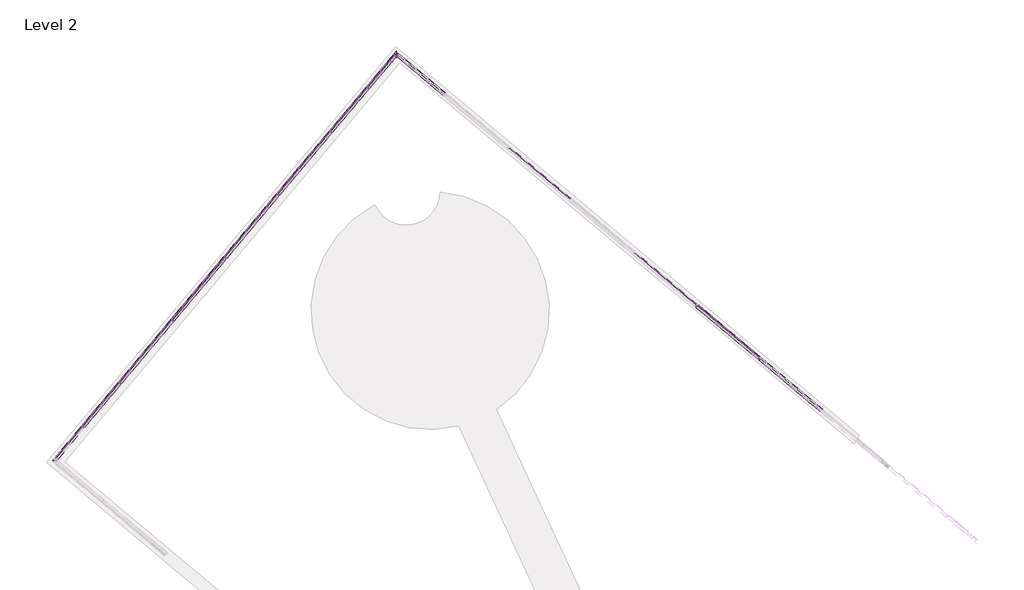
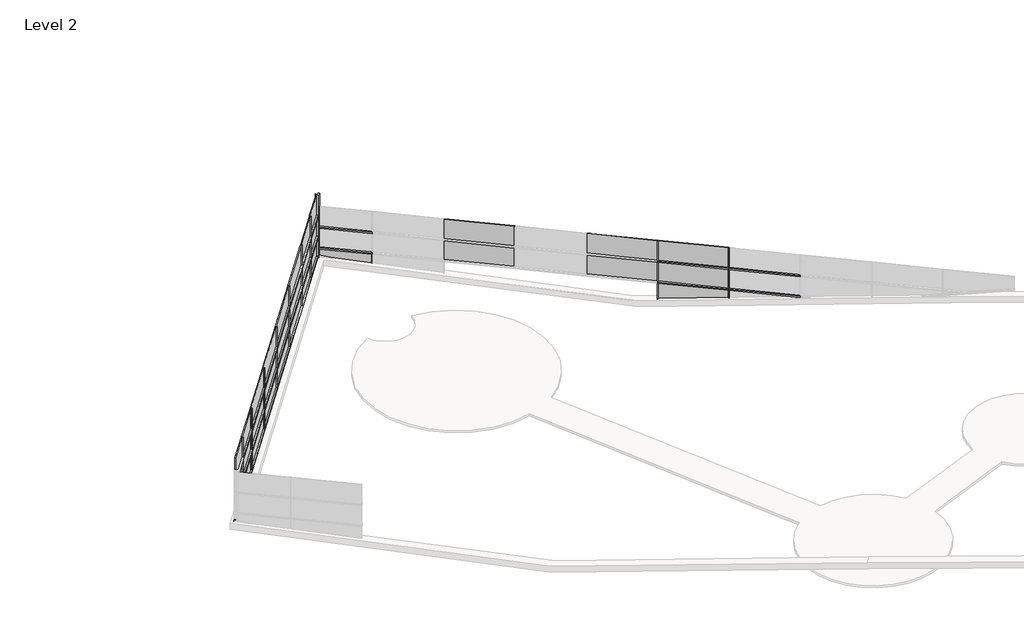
# One storey, part 3 of 4: 60 members, 32 plates.
"""IFC4 building model written with IfcOpenShell, lengths in millimetres."""

from ifc_helpers import new_model, si_unit, origin, place, context, project, spatial, transform, mapped, element, save
from components import member_d3104823, member_e6b937b8, member_e515bb77, member_d5849883, member_eb3f8489, member_eaba9652, member_3f395ae9, member_7cbddb58, member_3374d9b6, member_117cba67, member_79970b2d, member_c6559f13, member_8e78e238, member_25f71179, member_387caf8a, system_panel_glazed_a2c5a472, system_panel_glazed_e8362dec, system_panel_glazed_aaae68ce, system_panel_glazed_3c43611c, system_panel_glazed_5551a58a, system_panel_glazed_c349e88e, system_panel_glazed_467c971b, system_panel_glazed_b915fa72

model = new_model("IFC4")

# Units and contexts
model_context = context("Model", 3, world=origin())
ifc_project = project(units=[si_unit("LENGTHUNIT", "METRE", prefix="MILLI")], contexts=[model_context])

# Site, building, storey
site = spatial("IfcSite", under=ifc_project)
building = spatial("IfcBuilding", under=site)
storey = spatial("IfcBuildingStorey", under=building, Name="Level 2", Elevation=3048.0)

# Members
placement = place(None, origin())
member_shape = member_d3104823(model_context)
element("IfcMember", 1, ObjectType="Rectangular Mullion : 1.5\" x 2.5\" rectangular", at=placement, inside=storey, context=model_context, shape_type="MappedRepresentation", body=[
    mapped(member_shape, transform((-58047.6752037, 33669.3461699, 4620.4974171), x_axis=(0.6427876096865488, 0.7660444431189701, 0.0), y_axis=(-0.7660444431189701, 0.6427876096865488, 0.0), z_axis=(0.0, 0.0, 1.0))),
])
element("IfcMember", 2, ObjectType="Rectangular Mullion : 1.5\" x 2.5\" rectangular", at=placement, inside=storey, context=model_context, shape_type="MappedRepresentation", body=[
    mapped(member_shape, transform((-56676.2235597, 35303.7785937, 4620.4974171), x_axis=(0.6427876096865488, 0.7660444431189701, 0.0), y_axis=(-0.7660444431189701, 0.6427876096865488, 0.0), z_axis=(0.0, 0.0, 1.0))),
])
element("IfcMember", 3, ObjectType="Rectangular Mullion : 1.5\" x 2.5\" rectangular", at=placement, inside=storey, context=model_context, shape_type="MappedRepresentation", body=[
    mapped(member_shape, transform((-54717.0069254, 37638.6820564, 4620.4974171), x_axis=(0.6427876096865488, 0.7660444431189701, 0.0), y_axis=(-0.7660444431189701, 0.6427876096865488, 0.0), z_axis=(0.0, 0.0, 1.0))),
])
element("IfcMember", 4, ObjectType="Rectangular Mullion : 1.5\" x 2.5\" rectangular", at=placement, inside=storey, context=model_context, shape_type="MappedRepresentation", body=[
    mapped(member_shape, transform((-52757.790291, 39973.585519, 4620.4974171), x_axis=(0.6427876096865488, 0.7660444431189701, 0.0), y_axis=(-0.7660444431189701, 0.6427876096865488, 0.0), z_axis=(0.0, 0.0, 1.0))),
])
element("IfcMember", 5, ObjectType="Rectangular Mullion : 1.5\" x 2.5\" rectangular", at=placement, inside=storey, context=model_context, shape_type="MappedRepresentation", body=[
    mapped(member_shape, transform((-50798.5736567, 42308.4889816, 4620.4974171), x_axis=(0.6427876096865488, 0.7660444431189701, 0.0), y_axis=(-0.7660444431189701, 0.6427876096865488, 0.0), z_axis=(0.0, 0.0, 1.0))),
])
element("IfcMember", 6, ObjectType="Rectangular Mullion : 1.5\" x 2.5\" rectangular", at=placement, inside=storey, context=model_context, shape_type="MappedRepresentation", body=[
    mapped(member_shape, transform((-48839.3570224, 44643.3924442, 4620.4974171), x_axis=(0.6427876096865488, 0.7660444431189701, 0.0), y_axis=(-0.7660444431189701, 0.6427876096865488, 0.0), z_axis=(0.0, 0.0, 1.0))),
])
element("IfcMember", 7, ObjectType="Rectangular Mullion : 1.5\" x 2.5\" rectangular", at=placement, inside=storey, context=model_context, shape_type="MappedRepresentation", body=[
    mapped(member_shape, transform((-47467.9053784, 46277.8248681, 4620.4974171), x_axis=(0.6427876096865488, 0.7660444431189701, 0.0), y_axis=(-0.7660444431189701, 0.6427876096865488, 0.0), z_axis=(0.0, 0.0, 1.0))),
])
member_2_shape = member_e6b937b8(model_context)
element("IfcMember", 8, ObjectType="Rectangular Mullion : 1.5\" x 2.5\" rectangular", at=placement, inside=storey, context=model_context, shape_type="MappedRepresentation", body=[
    mapped(member_2_shape, transform((-58047.6752037, 33669.3461699, 5687.2974171), x_axis=(0.6427876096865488, 0.7660444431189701, 0.0), y_axis=(-0.7660444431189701, 0.6427876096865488, 0.0), z_axis=(0.0, 0.0, 1.0))),
])
element("IfcMember", 9, ObjectType="Rectangular Mullion : 1.5\" x 2.5\" rectangular", at=placement, inside=storey, context=model_context, shape_type="MappedRepresentation", body=[
    mapped(member_2_shape, transform((-56676.2235597, 35303.7785937, 5687.2974171), x_axis=(0.6427876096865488, 0.7660444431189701, 0.0), y_axis=(-0.7660444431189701, 0.6427876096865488, 0.0), z_axis=(0.0, 0.0, 1.0))),
])
element("IfcMember", 10, ObjectType="Rectangular Mullion : 1.5\" x 2.5\" rectangular", at=placement, inside=storey, context=model_context, shape_type="MappedRepresentation", body=[
    mapped(member_2_shape, transform((-54717.0069254, 37638.6820564, 5687.2974171), x_axis=(0.6427876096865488, 0.7660444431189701, 0.0), y_axis=(-0.7660444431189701, 0.6427876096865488, 0.0), z_axis=(0.0, 0.0, 1.0))),
])
element("IfcMember", 11, ObjectType="Rectangular Mullion : 1.5\" x 2.5\" rectangular", at=placement, inside=storey, context=model_context, shape_type="MappedRepresentation", body=[
    mapped(member_2_shape, transform((-52757.790291, 39973.585519, 5687.2974171), x_axis=(0.6427876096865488, 0.7660444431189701, 0.0), y_axis=(-0.7660444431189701, 0.6427876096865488, 0.0), z_axis=(0.0, 0.0, 1.0))),
])
element("IfcMember", 12, ObjectType="Rectangular Mullion : 1.5\" x 2.5\" rectangular", at=placement, inside=storey, context=model_context, shape_type="MappedRepresentation", body=[
    mapped(member_2_shape, transform((-58047.6752037, 33669.3461699, 6754.0974171), x_axis=(0.6427876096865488, 0.7660444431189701, 0.0), y_axis=(-0.7660444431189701, 0.6427876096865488, 0.0), z_axis=(0.0, 0.0, 1.0))),
])
element("IfcMember", 13, ObjectType="Rectangular Mullion : 1.5\" x 2.5\" rectangular", at=placement, inside=storey, context=model_context, shape_type="MappedRepresentation", body=[
    mapped(member_2_shape, transform((-56676.2235597, 35303.7785937, 6754.0974171), x_axis=(0.6427876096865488, 0.7660444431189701, 0.0), y_axis=(-0.7660444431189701, 0.6427876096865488, 0.0), z_axis=(0.0, 0.0, 1.0))),
])
element("IfcMember", 14, ObjectType="Rectangular Mullion : 1.5\" x 2.5\" rectangular", at=placement, inside=storey, context=model_context, shape_type="MappedRepresentation", body=[
    mapped(member_2_shape, transform((-54717.0069254, 37638.6820564, 6754.0974171), x_axis=(0.6427876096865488, 0.7660444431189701, 0.0), y_axis=(-0.7660444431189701, 0.6427876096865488, 0.0), z_axis=(0.0, 0.0, 1.0))),
])
element("IfcMember", 15, ObjectType="Rectangular Mullion : 1.5\" x 2.5\" rectangular", at=placement, inside=storey, context=model_context, shape_type="MappedRepresentation", body=[
    mapped(member_2_shape, transform((-52757.790291, 39973.585519, 6754.0974171), x_axis=(0.6427876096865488, 0.7660444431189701, 0.0), y_axis=(-0.7660444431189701, 0.6427876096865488, 0.0), z_axis=(0.0, 0.0, 1.0))),
])
element("IfcMember", 16, ObjectType="Rectangular Mullion : 1.5\" x 2.5\" rectangular", at=placement, inside=storey, context=model_context, shape_type="MappedRepresentation", body=[
    mapped(member_2_shape, transform((-50798.5736567, 42308.4889816, 5687.2974171), x_axis=(0.6427876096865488, 0.7660444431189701, 0.0), y_axis=(-0.7660444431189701, 0.6427876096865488, 0.0), z_axis=(0.0, 0.0, 1.0))),
])
element("IfcMember", 17, ObjectType="Rectangular Mullion : 1.5\" x 2.5\" rectangular", at=placement, inside=storey, context=model_context, shape_type="MappedRepresentation", body=[
    mapped(member_2_shape, transform((-48839.3570224, 44643.3924442, 5687.2974171), x_axis=(0.6427876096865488, 0.7660444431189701, 0.0), y_axis=(-0.7660444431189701, 0.6427876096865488, 0.0), z_axis=(0.0, 0.0, 1.0))),
])
element("IfcMember", 18, ObjectType="Rectangular Mullion : 1.5\" x 2.5\" rectangular", at=placement, inside=storey, context=model_context, shape_type="MappedRepresentation", body=[
    mapped(member_2_shape, transform((-50798.5736567, 42308.4889816, 6754.0974171), x_axis=(0.6427876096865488, 0.7660444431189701, 0.0), y_axis=(-0.7660444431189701, 0.6427876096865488, 0.0), z_axis=(0.0, 0.0, 1.0))),
])
element("IfcMember", 19, ObjectType="Rectangular Mullion : 1.5\" x 2.5\" rectangular", at=placement, inside=storey, context=model_context, shape_type="MappedRepresentation", body=[
    mapped(member_2_shape, transform((-48839.3570224, 44643.3924442, 6754.0974171), x_axis=(0.6427876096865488, 0.7660444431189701, 0.0), y_axis=(-0.7660444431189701, 0.6427876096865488, 0.0), z_axis=(0.0, 0.0, 1.0))),
])
element("IfcMember", 20, ObjectType="Rectangular Mullion : 1.5\" x 2.5\" rectangular", at=placement, inside=storey, context=model_context, shape_type="MappedRepresentation", body=[
    mapped(member_2_shape, transform((-35266.5365873, 38181.4180788, 5066.7444177), x_axis=(0.76604444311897, -0.6427876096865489, 0.0), y_axis=(0.6427876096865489, 0.76604444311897, 0.0), z_axis=(0.0, 0.0, 1.0))),
])
element("IfcMember", 21, ObjectType="Rectangular Mullion : 1.5\" x 2.5\" rectangular", at=placement, inside=storey, context=model_context, shape_type="MappedRepresentation", body=[
    mapped(member_2_shape, transform((-32931.6331246, 36222.2014445, 5066.7444177), x_axis=(0.76604444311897, -0.6427876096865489, 0.0), y_axis=(0.6427876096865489, 0.76604444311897, 0.0), z_axis=(0.0, 0.0, 1.0))),
])
element("IfcMember", 22, ObjectType="Rectangular Mullion : 1.5\" x 2.5\" rectangular", at=placement, inside=storey, context=model_context, shape_type="MappedRepresentation", body=[
    mapped(member_2_shape, transform((-35266.5365873, 38181.4180788, 6133.5444177), x_axis=(0.76604444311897, -0.6427876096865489, 0.0), y_axis=(0.6427876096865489, 0.76604444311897, 0.0), z_axis=(0.0, 0.0, 1.0))),
])
element("IfcMember", 23, ObjectType="Rectangular Mullion : 1.5\" x 2.5\" rectangular", at=placement, inside=storey, context=model_context, shape_type="MappedRepresentation", body=[
    mapped(member_2_shape, transform((-32931.6331246, 36222.2014445, 6133.5444177), x_axis=(0.76604444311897, -0.6427876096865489, 0.0), y_axis=(0.6427876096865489, 0.76604444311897, 0.0), z_axis=(0.0, 0.0, 1.0))),
])
element("IfcMember", 24, ObjectType="Rectangular Mullion : 1.5\" x 2.5\" rectangular", at=placement, inside=storey, context=model_context, shape_type="MappedRepresentation", body=[
    mapped(member_2_shape, transform((-47467.9053784, 46277.8248681, 5687.2974171), x_axis=(0.6427876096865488, 0.7660444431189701, 0.0), y_axis=(-0.7660444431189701, 0.6427876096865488, 0.0), z_axis=(0.0, 0.0, 1.0))),
])
element("IfcMember", 25, ObjectType="Rectangular Mullion : 1.5\" x 2.5\" rectangular", at=placement, inside=storey, context=model_context, shape_type="MappedRepresentation", body=[
    mapped(member_2_shape, transform((-47467.9053784, 46277.8248681, 6754.0974171), x_axis=(0.6427876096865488, 0.7660444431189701, 0.0), y_axis=(-0.7660444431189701, 0.6427876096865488, 0.0), z_axis=(0.0, 0.0, 1.0))),
])
member_3_shape = member_e515bb77(model_context)
element("IfcMember", 26, ObjectType="Rectangular Mullion : 1.5\" x 2.5\" rectangular", at=placement, inside=storey, context=model_context, shape_type="MappedRepresentation", body=[
    mapped(member_3_shape, transform((-35266.5365873, 38181.4180788, 3999.9444177), x_axis=(0.76604444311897, -0.6427876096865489, 0.0), y_axis=(0.6427876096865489, 0.76604444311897, 0.0), z_axis=(0.0, 0.0, 1.0))),
])
member_4_shape = member_d5849883(model_context)
element("IfcMember", 27, ObjectType="Rectangular Mullion : 1.5\" x 2.5\" rectangular", at=placement, inside=storey, context=model_context, shape_type="MappedRepresentation", body=[
    mapped(member_4_shape, transform((-32931.6331246, 36222.2014445, 3999.9444177), x_axis=(0.76604444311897, -0.6427876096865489, 0.0), y_axis=(0.6427876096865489, 0.76604444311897, 0.0), z_axis=(0.0, 0.0, 1.0))),
])
member_5_shape = member_eb3f8489(model_context)
element("IfcMember", 28, ObjectType="Rectangular Mullion : 1.5\" x 2.5\" rectangular", at=placement, inside=storey, context=model_context, shape_type="MappedRepresentation", body=[
    mapped(member_5_shape, transform((-46413.2957994, 47534.6596226, 3585.4474171), x_axis=(-0.76604444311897, 0.6427876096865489, 0.0), y_axis=(0.6427876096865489, 0.76604444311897, 0.0), z_axis=(0.0, 0.0, -1.0))),
])
member_6_shape = member_eaba9652(model_context)
element("IfcMember", 29, ObjectType="Rectangular Mullion : 2.5\" x 5\" rectangular", at=placement, inside=storey, context=model_context, shape_type="MappedRepresentation", body=[
    mapped(member_6_shape, transform((-56676.2235597, 35303.7785937, 4652.2474171), x_axis=(0.0, 0.0, 1.0), y_axis=(-0.766044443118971, 0.6427876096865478, 0.0), z_axis=(-0.6427876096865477, -0.7660444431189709, 0.0))),
])
element("IfcMember", 30, ObjectType="Rectangular Mullion : 2.5\" x 5\" rectangular", at=placement, inside=storey, context=model_context, shape_type="MappedRepresentation", body=[
    mapped(member_6_shape, transform((-54717.0069254, 37638.6820564, 4652.2474171), x_axis=(0.0, 0.0, 1.0), y_axis=(-0.7660444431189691, 0.6427876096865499, 0.0), z_axis=(-0.6427876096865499, -0.7660444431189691, 0.0))),
])
element("IfcMember", 31, ObjectType="Rectangular Mullion : 2.5\" x 5\" rectangular", at=placement, inside=storey, context=model_context, shape_type="MappedRepresentation", body=[
    mapped(member_6_shape, transform((-52757.790291, 39973.585519, 4652.2474171), x_axis=(0.0, 0.0, 1.0), y_axis=(-0.7660444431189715, 0.6427876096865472, 0.0), z_axis=(-0.6427876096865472, -0.7660444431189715, 0.0))),
])
element("IfcMember", 32, ObjectType="Rectangular Mullion : 2.5\" x 5\" rectangular", at=placement, inside=storey, context=model_context, shape_type="MappedRepresentation", body=[
    mapped(member_6_shape, transform((-56676.2235597, 35303.7785937, 5719.0474171), x_axis=(0.0, 0.0, 1.0), y_axis=(-0.766044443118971, 0.6427876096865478, 0.0), z_axis=(-0.6427876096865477, -0.7660444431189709, 0.0))),
])
element("IfcMember", 33, ObjectType="Rectangular Mullion : 2.5\" x 5\" rectangular", at=placement, inside=storey, context=model_context, shape_type="MappedRepresentation", body=[
    mapped(member_6_shape, transform((-54717.0069254, 37638.6820564, 5719.0474171), x_axis=(0.0, 0.0, 1.0), y_axis=(-0.7660444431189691, 0.6427876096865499, 0.0), z_axis=(-0.6427876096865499, -0.7660444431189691, 0.0))),
])
element("IfcMember", 34, ObjectType="Rectangular Mullion : 2.5\" x 5\" rectangular", at=placement, inside=storey, context=model_context, shape_type="MappedRepresentation", body=[
    mapped(member_6_shape, transform((-52757.790291, 39973.585519, 5719.0474171), x_axis=(0.0, 0.0, 1.0), y_axis=(-0.76604444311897, 0.642787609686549, 0.0), z_axis=(-0.6427876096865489, -0.7660444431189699, 0.0))),
])
element("IfcMember", 35, ObjectType="Rectangular Mullion : 2.5\" x 5\" rectangular", at=placement, inside=storey, context=model_context, shape_type="MappedRepresentation", body=[
    mapped(member_6_shape, transform((-50798.5736567, 42308.4889816, 4652.2474171), x_axis=(0.0, 0.0, 1.0), y_axis=(-0.766044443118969, 0.64278760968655, 0.0), z_axis=(-0.64278760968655, -0.766044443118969, 0.0))),
])
element("IfcMember", 36, ObjectType="Rectangular Mullion : 2.5\" x 5\" rectangular", at=placement, inside=storey, context=model_context, shape_type="MappedRepresentation", body=[
    mapped(member_6_shape, transform((-50798.5736567, 42308.4889816, 5719.0474171), x_axis=(0.0, 0.0, 1.0), y_axis=(-0.766044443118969, 0.64278760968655, 0.0), z_axis=(-0.64278760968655, -0.766044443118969, 0.0))),
])
element("IfcMember", 37, ObjectType="Rectangular Mullion : 2.5\" x 5\" rectangular", at=placement, inside=storey, context=model_context, shape_type="MappedRepresentation", body=[
    mapped(member_6_shape, transform((-35266.5365873, 38181.4180788, 4031.6944177), x_axis=(0.0, 0.0, 1.0), y_axis=(0.642787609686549, 0.76604444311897, 0.0), z_axis=(-0.7660444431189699, 0.6427876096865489, 0.0))),
])
element("IfcMember", 38, ObjectType="Rectangular Mullion : 2.5\" x 5\" rectangular", at=placement, inside=storey, context=model_context, shape_type="MappedRepresentation", body=[
    mapped(member_6_shape, transform((-32931.6331246, 36222.2014445, 4031.6944177), x_axis=(0.0, 0.0, 1.0), y_axis=(0.6427876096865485, 0.7660444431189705, 0.0), z_axis=(-0.7660444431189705, 0.6427876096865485, 0.0))),
])
element("IfcMember", 39, ObjectType="Rectangular Mullion : 2.5\" x 5\" rectangular", at=placement, inside=storey, context=model_context, shape_type="MappedRepresentation", body=[
    mapped(member_6_shape, transform((-35266.5365873, 38181.4180788, 5098.4944177), x_axis=(0.0, 0.0, 1.0), y_axis=(0.6427876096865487, 0.7660444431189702, 0.0), z_axis=(-0.7660444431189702, 0.6427876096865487, 0.0))),
])
element("IfcMember", 40, ObjectType="Rectangular Mullion : 2.5\" x 5\" rectangular", at=placement, inside=storey, context=model_context, shape_type="MappedRepresentation", body=[
    mapped(member_6_shape, transform((-32931.6331246, 36222.2014445, 5098.4944177), x_axis=(0.0, 0.0, 1.0), y_axis=(0.6427876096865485, 0.7660444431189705, 0.0), z_axis=(-0.7660444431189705, 0.6427876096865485, 0.0))),
])
member_7_shape = member_3f395ae9(model_context)
element("IfcMember", 41, ObjectType="Rectangular Mullion : 2.5\" x 5\" rectangular", at=placement, inside=storey, context=model_context, shape_type="MappedRepresentation", body=[
    mapped(member_7_shape, transform((-54717.0069254, 37638.6820564, 3585.4474171), x_axis=(0.0, 0.0, -1.0), y_axis=(-0.766044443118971, 0.6427876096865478, 0.0), z_axis=(0.6427876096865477, 0.7660444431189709, 0.0))),
])
element("IfcMember", 42, ObjectType="Rectangular Mullion : 2.5\" x 5\" rectangular", at=placement, inside=storey, context=model_context, shape_type="MappedRepresentation", body=[
    mapped(member_7_shape, transform((-52757.790291, 39973.585519, 3585.4474171), x_axis=(0.0, 0.0, -1.0), y_axis=(-0.7660444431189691, 0.6427876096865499, 0.0), z_axis=(0.6427876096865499, 0.7660444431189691, 0.0))),
])
element("IfcMember", 43, ObjectType="Rectangular Mullion : 2.5\" x 5\" rectangular", at=placement, inside=storey, context=model_context, shape_type="MappedRepresentation", body=[
    mapped(member_7_shape, transform((-50798.5736567, 42308.4889816, 3585.4474171), x_axis=(0.0, 0.0, -1.0), y_axis=(-0.7660444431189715, 0.6427876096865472, 0.0), z_axis=(0.6427876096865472, 0.7660444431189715, 0.0))),
])
element("IfcMember", 44, ObjectType="Rectangular Mullion : 2.5\" x 5\" rectangular", at=placement, inside=storey, context=model_context, shape_type="MappedRepresentation", body=[
    mapped(member_7_shape, transform((-48839.3570224, 44643.3924442, 3585.4474171), x_axis=(0.0, 0.0, -1.0), y_axis=(-0.766044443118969, 0.64278760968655, 0.0), z_axis=(0.64278760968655, 0.766044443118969, 0.0))),
])
member_8_shape = member_7cbddb58(model_context)
element("IfcMember", 45, ObjectType="Rectangular Mullion : 2.5\" x 5\" rectangular", at=placement, inside=storey, context=model_context, shape_type="MappedRepresentation", body=[
    mapped(member_8_shape, transform((-58047.6752037, 33669.3461699, 4652.2474171), x_axis=(0.0, 0.0, 1.0), y_axis=(-0.766044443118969, 0.6427876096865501, 0.0), z_axis=(-0.6427876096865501, -0.766044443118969, 0.0))),
])
element("IfcMember", 46, ObjectType="Rectangular Mullion : 2.5\" x 5\" rectangular", at=placement, inside=storey, context=model_context, shape_type="MappedRepresentation", body=[
    mapped(member_8_shape, transform((-58047.6752037, 33669.3461699, 5719.0474171), x_axis=(0.0, 0.0, 1.0), y_axis=(-0.766044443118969, 0.6427876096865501, 0.0), z_axis=(-0.6427876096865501, -0.766044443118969, 0.0))),
])
element("IfcMember", 47, ObjectType="Rectangular Mullion : 2.5\" x 5\" rectangular", at=placement, inside=storey, context=model_context, shape_type="MappedRepresentation", body=[
    mapped(member_8_shape, transform((-48839.3570224, 44643.3924442, 4652.2474171), x_axis=(0.0, 0.0, 1.0), y_axis=(-0.766044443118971, 0.6427876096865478, 0.0), z_axis=(-0.6427876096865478, -0.766044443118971, 0.0))),
])
element("IfcMember", 48, ObjectType="Rectangular Mullion : 2.5\" x 5\" rectangular", at=placement, inside=storey, context=model_context, shape_type="MappedRepresentation", body=[
    mapped(member_8_shape, transform((-48839.3570224, 44643.3924442, 5719.0474171), x_axis=(0.0, 0.0, 1.0), y_axis=(-0.766044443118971, 0.6427876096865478, 0.0), z_axis=(-0.6427876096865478, -0.766044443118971, 0.0))),
])
member_9_shape = member_3374d9b6(model_context)
element("IfcMember", 49, ObjectType="Rectangular Mullion : 2.5\" x 5\" rectangular", at=placement, inside=storey, context=model_context, shape_type="MappedRepresentation", body=[
    mapped(member_9_shape, transform((-56676.2235597, 35303.7785937, 3585.4474171), x_axis=(0.0, 0.0, -1.0), y_axis=(-0.7660444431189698, 0.6427876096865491, 0.0), z_axis=(0.6427876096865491, 0.7660444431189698, 0.0))),
])
element("IfcMember", 50, ObjectType="Rectangular Mullion : 2.5\" x 5\" rectangular", at=placement, inside=storey, context=model_context, shape_type="MappedRepresentation", body=[
    mapped(member_9_shape, transform((-47467.9053784, 46277.8248681, 3585.4474171), x_axis=(0.0, 0.0, -1.0), y_axis=(-0.766044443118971, 0.6427876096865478, 0.0), z_axis=(0.6427876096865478, 0.766044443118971, 0.0))),
])
member_10_shape = member_117cba67(model_context)
element("IfcMember", 51, ObjectType="Rectangular Mullion : 2.5\" x 5\" rectangular", at=placement, inside=storey, context=model_context, shape_type="MappedRepresentation", body=[
    mapped(member_10_shape, transform((-47467.9053784, 46277.8248681, 4652.2474171), x_axis=(0.0, 0.0, 1.0), y_axis=(-0.766044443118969, 0.6427876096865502, 0.0), z_axis=(-0.6427876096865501, -0.7660444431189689, 0.0))),
])
element("IfcMember", 52, ObjectType="Rectangular Mullion : 2.5\" x 5\" rectangular", at=placement, inside=storey, context=model_context, shape_type="MappedRepresentation", body=[
    mapped(member_10_shape, transform((-47467.9053784, 46277.8248681, 5719.0474171), x_axis=(0.0, 0.0, 1.0), y_axis=(-0.766044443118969, 0.6427876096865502, 0.0), z_axis=(-0.6427876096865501, -0.7660444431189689, 0.0))),
])
member_11_shape = member_79970b2d(model_context)
element("IfcMember", 53, ObjectType="Rectangular Mullion : 2.5\" x 5\" rectangular", at=placement, inside=storey, context=model_context, shape_type="MappedRepresentation", body=[
    mapped(member_11_shape, transform((-46413.2957994, 47534.6596226, 3585.4474171), x_axis=(0.0, 0.0, -1.0), y_axis=(-0.766044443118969, 0.6427876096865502, 0.0), z_axis=(0.6427876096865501, 0.7660444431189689, 0.0))),
])
member_12_shape = member_c6559f13(model_context)
element("IfcMember", 54, ObjectType="Rectangular Mullion : 2.5\" x 5\" rectangular", at=placement, inside=storey, context=model_context, shape_type="MappedRepresentation", body=[
    mapped(member_12_shape, transform((-32931.6331246, 36222.2014445, 3354.8585413), x_axis=(0.06157656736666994, -0.05166887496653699, -0.9967640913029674), y_axis=(0.6427876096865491, 0.7660444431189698, 0.0), z_axis=(0.7635655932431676, -0.6407076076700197, 0.0803824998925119))),
])
member_13_shape = member_8e78e238(model_context)
element("IfcMember", 55, ObjectType="Rectangular Mullion : 2.5\" x 5\" rectangular", at=placement, inside=storey, context=model_context, shape_type="MappedRepresentation", body=[
    mapped(member_13_shape, transform((-46340.3300662, 47473.4341027, 4031.6944177), x_axis=(0.0, 0.0, 1.0), y_axis=(0.6427876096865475, 0.7660444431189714, 0.0), z_axis=(-0.7660444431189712, 0.6427876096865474, 0.0))),
])
element("IfcMember", 56, ObjectType="Rectangular Mullion : 2.5\" x 5\" rectangular", at=placement, inside=storey, context=model_context, shape_type="MappedRepresentation", body=[
    mapped(member_13_shape, transform((-46340.3300662, 47473.4341027, 5098.4944177), x_axis=(0.0, 0.0, 1.0), y_axis=(0.6427876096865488, 0.76604444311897, 0.0), z_axis=(-0.76604444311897, 0.6427876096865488, 0.0))),
])
member_14_shape = member_25f71179(model_context)
element("IfcMember", 57, ObjectType="Rectangular Mullion : 2.5\" x 5\" rectangular", at=placement, inside=storey, context=model_context, shape_type="MappedRepresentation", body=[
    mapped(member_14_shape, transform((-58047.6752037, 33669.3461699, 3585.4474171), x_axis=(0.0, 0.0, -1.0), y_axis=(-0.7660444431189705, 0.6427876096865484, 0.0), z_axis=(0.6427876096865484, 0.7660444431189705, 0.0))),
])
member_15_shape = member_387caf8a(model_context)
element("IfcMember", 58, ObjectType="V Corner Mullion : 5\" V Corner", at=placement, inside=storey, context=model_context, shape_type="MappedRepresentation", body=[
    mapped(member_15_shape, transform((-46413.2957994, 47534.6596226, 5719.0474171), x_axis=(0.6427876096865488, 0.7660444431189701, 0.0), y_axis=(-0.7660444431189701, 0.6427876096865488, 0.0), z_axis=(0.0, 0.0, 1.0))),
])
element("IfcMember", 59, ObjectType="V Corner Mullion : 5\" V Corner", at=placement, inside=storey, context=model_context, shape_type="MappedRepresentation", body=[
    mapped(member_15_shape, transform((-46413.2957994, 47534.6596226, 6785.8474171), x_axis=(0.6427876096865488, 0.7660444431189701, 0.0), y_axis=(-0.7660444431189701, 0.6427876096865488, 0.0), z_axis=(0.0, 0.0, 1.0))),
])
element("IfcMember", 60, ObjectType="V Corner Mullion : 5\" V Corner", at=placement, inside=storey, context=model_context, shape_type="MappedRepresentation", body=[
    mapped(member_15_shape, transform((-46413.2957994, 47534.6596226, 4652.2474171), x_axis=(0.6427876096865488, 0.7660444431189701, 0.0), y_axis=(-0.7660444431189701, 0.6427876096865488, 0.0), z_axis=(0.0, 0.0, 1.0))),
])

# Plates
system_panel_glazed_shape = system_panel_glazed_a2c5a472(model_context)
element("IfcPlate", 61, ObjectType="System Panel : Glazed", at=placement, inside=storey, context=model_context, shape_type="MappedRepresentation", body=[
    mapped(system_panel_glazed_shape, transform((-41103.7952438, 43079.4596646, 4063.4444177), x_axis=(0.76604444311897, -0.6427876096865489, 0.0), y_axis=(0.6427876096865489, 0.76604444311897, 0.0), z_axis=(0.0, 0.0, 1.0))),
])
element("IfcPlate", 62, ObjectType="System Panel : Glazed", at=placement, inside=storey, context=model_context, shape_type="MappedRepresentation", body=[
    mapped(system_panel_glazed_shape, transform((-36433.9883186, 39161.026396, 4063.4444177), x_axis=(0.76604444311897, -0.6427876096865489, 0.0), y_axis=(0.6427876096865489, 0.76604444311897, 0.0), z_axis=(0.0, 0.0, 1.0))),
])
element("IfcPlate", 63, ObjectType="System Panel : Glazed", at=placement, inside=storey, context=model_context, shape_type="MappedRepresentation", body=[
    mapped(system_panel_glazed_shape, transform((-34099.0848559, 37201.8097616, 4063.4444177), x_axis=(0.76604444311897, -0.6427876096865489, 0.0), y_axis=(0.6427876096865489, 0.76604444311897, 0.0), z_axis=(0.0, 0.0, 1.0))),
])
element("IfcPlate", 64, ObjectType="System Panel : Glazed", at=placement, inside=storey, context=model_context, shape_type="MappedRepresentation", body=[
    mapped(system_panel_glazed_shape, transform((-41103.7952438, 43079.4596646, 5130.2444177), x_axis=(0.76604444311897, -0.6427876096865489, 0.0), y_axis=(0.6427876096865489, 0.76604444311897, 0.0), z_axis=(0.0, 0.0, 1.0))),
])
element("IfcPlate", 65, ObjectType="System Panel : Glazed", at=placement, inside=storey, context=model_context, shape_type="MappedRepresentation", body=[
    mapped(system_panel_glazed_shape, transform((-36433.9883186, 39161.026396, 5130.2444177), x_axis=(0.76604444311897, -0.6427876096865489, 0.0), y_axis=(0.6427876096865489, 0.76604444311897, 0.0), z_axis=(0.0, 0.0, 1.0))),
])
element("IfcPlate", 66, ObjectType="System Panel : Glazed", at=placement, inside=storey, context=model_context, shape_type="MappedRepresentation", body=[
    mapped(system_panel_glazed_shape, transform((-34099.0848559, 37201.8097616, 5130.2444177), x_axis=(0.76604444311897, -0.6427876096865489, 0.0), y_axis=(0.6427876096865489, 0.76604444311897, 0.0), z_axis=(0.0, 0.0, 1.0))),
])
element("IfcPlate", 67, ObjectType="System Panel : Glazed", at=placement, inside=storey, context=model_context, shape_type="MappedRepresentation", body=[
    mapped(system_panel_glazed_shape, transform((-55696.6152425, 36471.230325, 4683.9974171), x_axis=(0.6427876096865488, 0.7660444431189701, 0.0), y_axis=(-0.7660444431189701, 0.6427876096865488, 0.0), z_axis=(0.0, 0.0, 1.0))),
])
element("IfcPlate", 68, ObjectType="System Panel : Glazed", at=placement, inside=storey, context=model_context, shape_type="MappedRepresentation", body=[
    mapped(system_panel_glazed_shape, transform((-53737.3986082, 38806.1337877, 4683.9974171), x_axis=(0.6427876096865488, 0.7660444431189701, 0.0), y_axis=(-0.7660444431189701, 0.6427876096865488, 0.0), z_axis=(0.0, 0.0, 1.0))),
])
element("IfcPlate", 69, ObjectType="System Panel : Glazed", at=placement, inside=storey, context=model_context, shape_type="MappedRepresentation", body=[
    mapped(system_panel_glazed_shape, transform((-51778.1819739, 41141.0372503, 4683.9974171), x_axis=(0.6427876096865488, 0.7660444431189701, 0.0), y_axis=(-0.7660444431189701, 0.6427876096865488, 0.0), z_axis=(0.0, 0.0, 1.0))),
])
element("IfcPlate", 70, ObjectType="System Panel : Glazed", at=placement, inside=storey, context=model_context, shape_type="MappedRepresentation", body=[
    mapped(system_panel_glazed_shape, transform((-55696.6152425, 36471.230325, 5750.7974171), x_axis=(0.6427876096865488, 0.7660444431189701, 0.0), y_axis=(-0.7660444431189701, 0.6427876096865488, 0.0), z_axis=(0.0, 0.0, 1.0))),
])
element("IfcPlate", 71, ObjectType="System Panel : Glazed", at=placement, inside=storey, context=model_context, shape_type="MappedRepresentation", body=[
    mapped(system_panel_glazed_shape, transform((-53737.3986082, 38806.1337877, 5750.7974171), x_axis=(0.6427876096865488, 0.7660444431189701, 0.0), y_axis=(-0.7660444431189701, 0.6427876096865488, 0.0), z_axis=(0.0, 0.0, 1.0))),
])
element("IfcPlate", 72, ObjectType="System Panel : Glazed", at=placement, inside=storey, context=model_context, shape_type="MappedRepresentation", body=[
    mapped(system_panel_glazed_shape, transform((-51778.1819739, 41141.0372503, 5750.7974171), x_axis=(0.6427876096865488, 0.7660444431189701, 0.0), y_axis=(-0.7660444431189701, 0.6427876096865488, 0.0), z_axis=(0.0, 0.0, 1.0))),
])
element("IfcPlate", 73, ObjectType="System Panel : Glazed", at=placement, inside=storey, context=model_context, shape_type="MappedRepresentation", body=[
    mapped(system_panel_glazed_shape, transform((-49818.9653396, 43475.9407129, 4683.9974171), x_axis=(0.6427876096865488, 0.7660444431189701, 0.0), y_axis=(-0.7660444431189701, 0.6427876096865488, 0.0), z_axis=(0.0, 0.0, 1.0))),
])
element("IfcPlate", 74, ObjectType="System Panel : Glazed", at=placement, inside=storey, context=model_context, shape_type="MappedRepresentation", body=[
    mapped(system_panel_glazed_shape, transform((-49818.9653396, 43475.9407129, 5750.7974171), x_axis=(0.6427876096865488, 0.7660444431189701, 0.0), y_axis=(-0.7660444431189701, 0.6427876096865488, 0.0), z_axis=(0.0, 0.0, 1.0))),
])
system_panel_glazed_2_shape = system_panel_glazed_e8362dec(model_context)
element("IfcPlate", 75, ObjectType="System Panel : Glazed", at=placement, inside=storey, context=model_context, shape_type="MappedRepresentation", body=[
    mapped(system_panel_glazed_2_shape, transform((-55696.6152425, 36471.230325, 3648.9474171), x_axis=(0.6427876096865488, 0.7660444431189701, 0.0), y_axis=(-0.7660444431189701, 0.6427876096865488, 0.0), z_axis=(0.0, 0.0, 1.0))),
])
element("IfcPlate", 76, ObjectType="System Panel : Glazed", at=placement, inside=storey, context=model_context, shape_type="MappedRepresentation", body=[
    mapped(system_panel_glazed_2_shape, transform((-53737.3986082, 38806.1337877, 3648.9474171), x_axis=(0.6427876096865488, 0.7660444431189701, 0.0), y_axis=(-0.7660444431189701, 0.6427876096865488, 0.0), z_axis=(0.0, 0.0, 1.0))),
])
element("IfcPlate", 77, ObjectType="System Panel : Glazed", at=placement, inside=storey, context=model_context, shape_type="MappedRepresentation", body=[
    mapped(system_panel_glazed_2_shape, transform((-51778.1819739, 41141.0372503, 3648.9474171), x_axis=(0.6427876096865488, 0.7660444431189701, 0.0), y_axis=(-0.7660444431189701, 0.6427876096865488, 0.0), z_axis=(0.0, 0.0, 1.0))),
])
element("IfcPlate", 78, ObjectType="System Panel : Glazed", at=placement, inside=storey, context=model_context, shape_type="MappedRepresentation", body=[
    mapped(system_panel_glazed_2_shape, transform((-49818.9653396, 43475.9407129, 3648.9474171), x_axis=(0.6427876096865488, 0.7660444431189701, 0.0), y_axis=(-0.7660444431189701, 0.6427876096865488, 0.0), z_axis=(0.0, 0.0, 1.0))),
])
system_panel_glazed_3_shape = system_panel_glazed_aaae68ce(model_context)
element("IfcPlate", 79, ObjectType="System Panel : Glazed", at=placement, inside=storey, context=model_context, shape_type="MappedRepresentation", body=[
    mapped(system_panel_glazed_3_shape, transform((-57361.9493817, 34486.5623818, 3648.9474171), x_axis=(0.6427876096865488, 0.7660444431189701, 0.0), y_axis=(-0.7660444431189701, 0.6427876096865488, 0.0), z_axis=(0.0, 0.0, 1.0))),
])
element("IfcPlate", 80, ObjectType="System Panel : Glazed", at=placement, inside=storey, context=model_context, shape_type="MappedRepresentation", body=[
    mapped(system_panel_glazed_3_shape, transform((-48153.6312004, 45460.6086562, 3648.9474171), x_axis=(0.6427876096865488, 0.7660444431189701, 0.0), y_axis=(-0.7660444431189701, 0.6427876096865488, 0.0), z_axis=(0.0, 0.0, 1.0))),
])
system_panel_glazed_4_shape = system_panel_glazed_3c43611c(model_context)
element("IfcPlate", 81, ObjectType="System Panel : Glazed", at=placement, inside=storey, context=model_context, shape_type="MappedRepresentation", body=[
    mapped(system_panel_glazed_4_shape, transform((-57361.9493817, 34486.5623818, 4683.9974171), x_axis=(0.6427876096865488, 0.7660444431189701, 0.0), y_axis=(-0.7660444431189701, 0.6427876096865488, 0.0), z_axis=(0.0, 0.0, 1.0))),
])
element("IfcPlate", 82, ObjectType="System Panel : Glazed", at=placement, inside=storey, context=model_context, shape_type="MappedRepresentation", body=[
    mapped(system_panel_glazed_4_shape, transform((-57361.9493817, 34486.5623818, 5750.7974171), x_axis=(0.6427876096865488, 0.7660444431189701, 0.0), y_axis=(-0.7660444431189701, 0.6427876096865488, 0.0), z_axis=(0.0, 0.0, 1.0))),
])
element("IfcPlate", 83, ObjectType="System Panel : Glazed", at=placement, inside=storey, context=model_context, shape_type="MappedRepresentation", body=[
    mapped(system_panel_glazed_4_shape, transform((-48153.6312004, 45460.6086562, 4683.9974171), x_axis=(0.6427876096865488, 0.7660444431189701, 0.0), y_axis=(-0.7660444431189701, 0.6427876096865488, 0.0), z_axis=(0.0, 0.0, 1.0))),
])
element("IfcPlate", 84, ObjectType="System Panel : Glazed", at=placement, inside=storey, context=model_context, shape_type="MappedRepresentation", body=[
    mapped(system_panel_glazed_4_shape, transform((-48153.6312004, 45460.6086562, 5750.7974171), x_axis=(0.6427876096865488, 0.7660444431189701, 0.0), y_axis=(-0.7660444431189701, 0.6427876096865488, 0.0), z_axis=(0.0, 0.0, 1.0))),
])
system_panel_glazed_5_shape = system_panel_glazed_5551a58a(model_context)
element("IfcPlate", 85, ObjectType="System Panel : Glazed", at=placement, inside=storey, context=model_context, shape_type="MappedRepresentation", body=[
    mapped(system_panel_glazed_5_shape, transform((-58550.4897853, 33070.1150859, 3648.9474171), x_axis=(0.6427876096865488, 0.7660444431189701, 0.0), y_axis=(-0.7660444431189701, 0.6427876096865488, 0.0), z_axis=(0.0, 0.0, 1.0))),
])
element("IfcPlate", 86, ObjectType="System Panel : Glazed", at=placement, inside=storey, context=model_context, shape_type="MappedRepresentation", body=[
    mapped(system_panel_glazed_5_shape, transform((-46965.0907968, 46877.055952, 3648.9474171), x_axis=(0.6427876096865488, 0.7660444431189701, 0.0), y_axis=(-0.7660444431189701, 0.6427876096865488, 0.0), z_axis=(0.0, 0.0, 1.0))),
])
system_panel_glazed_6_shape = system_panel_glazed_c349e88e(model_context)
element("IfcPlate", 87, ObjectType="System Panel : Glazed", at=placement, inside=storey, context=model_context, shape_type="MappedRepresentation", body=[
    mapped(system_panel_glazed_6_shape, transform((-58550.4897853, 33070.1150859, 4683.9974171), x_axis=(0.6427876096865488, 0.7660444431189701, 0.0), y_axis=(-0.7660444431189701, 0.6427876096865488, 0.0), z_axis=(0.0, 0.0, 1.0))),
])
element("IfcPlate", 88, ObjectType="System Panel : Glazed", at=placement, inside=storey, context=model_context, shape_type="MappedRepresentation", body=[
    mapped(system_panel_glazed_6_shape, transform((-58550.4897853, 33070.1150859, 5750.7974171), x_axis=(0.6427876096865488, 0.7660444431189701, 0.0), y_axis=(-0.7660444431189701, 0.6427876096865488, 0.0), z_axis=(0.0, 0.0, 1.0))),
])
element("IfcPlate", 89, ObjectType="System Panel : Glazed", at=placement, inside=storey, context=model_context, shape_type="MappedRepresentation", body=[
    mapped(system_panel_glazed_6_shape, transform((-46965.0907968, 46877.055952, 4683.9974171), x_axis=(0.6427876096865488, 0.7660444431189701, 0.0), y_axis=(-0.7660444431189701, 0.6427876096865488, 0.0), z_axis=(0.0, 0.0, 1.0))),
])
element("IfcPlate", 90, ObjectType="System Panel : Glazed", at=placement, inside=storey, context=model_context, shape_type="MappedRepresentation", body=[
    mapped(system_panel_glazed_6_shape, transform((-46965.0907968, 46877.055952, 5750.7974171), x_axis=(0.6427876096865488, 0.7660444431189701, 0.0), y_axis=(-0.7660444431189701, 0.6427876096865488, 0.0), z_axis=(0.0, 0.0, 1.0))),
])
system_panel_glazed_7_shape = system_panel_glazed_467c971b(model_context)
element("IfcPlate", 91, ObjectType="System Panel : Glazed", at=placement, inside=storey, context=model_context, shape_type="MappedRepresentation", body=[
    mapped(system_panel_glazed_7_shape, transform((-45502.4265453, 46770.3495674, 3388.3757327), x_axis=(0.76604444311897, -0.6427876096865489, 0.0), y_axis=(0.6427876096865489, 0.76604444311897, 0.0), z_axis=(0.0, 0.0, 1.0))),
])
system_panel_glazed_8_shape = system_panel_glazed_b915fa72(model_context)
element("IfcPlate", 92, ObjectType="System Panel : Glazed", at=placement, inside=storey, context=model_context, shape_type="MappedRepresentation", body=[
    mapped(system_panel_glazed_8_shape, transform((-34099.0848559, 37201.8097616, 3174.2996963), x_axis=(0.76604444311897, -0.6427876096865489, 0.0), y_axis=(0.6427876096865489, 0.76604444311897, 0.0), z_axis=(0.0, 0.0, 1.0))),
])

save(model, "model.ifc")
